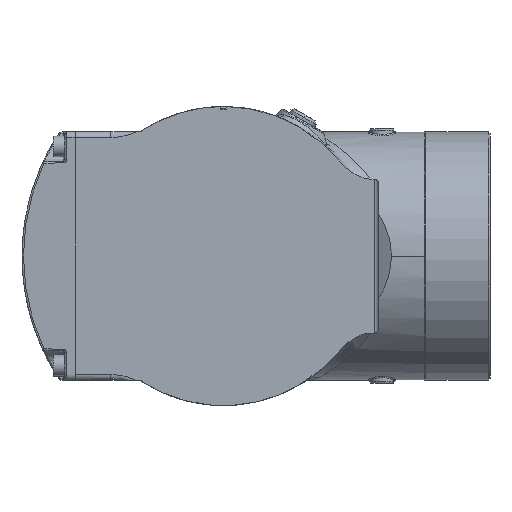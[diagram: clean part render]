
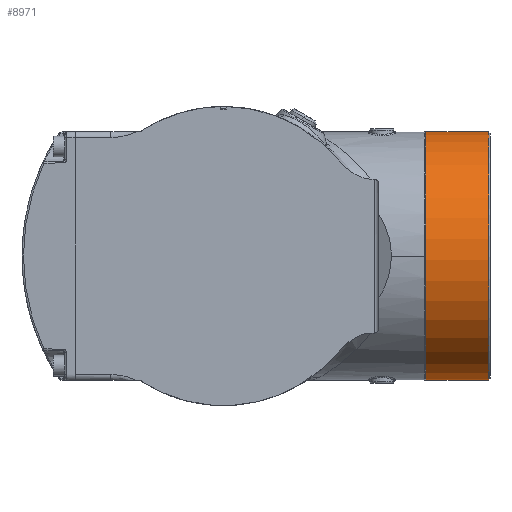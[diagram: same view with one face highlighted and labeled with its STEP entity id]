
A CAD part, front view. The second image highlights one B-rep face of the part: STEP entity #8971.
In plain terms, the highlighted cylindrical face has radius 42 mm (diameter 84 mm), a partial arc.
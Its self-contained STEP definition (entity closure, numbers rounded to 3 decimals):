
#212 = FACE_OUTER_BOUND ( 'NONE', #12780, .T. ) ;
#383 = AXIS2_PLACEMENT_3D ( 'NONE', #667, #4928, #14916 ) ;
#667 = CARTESIAN_POINT ( 'NONE',  ( 543.3, 0., 1009. ) ) ;
#1250 = AXIS2_PLACEMENT_3D ( 'NONE', #3357, #17419, #1975 ) ;
#1293 = EDGE_CURVE ( 'NONE', #12855, #14902, #7338, .T. ) ;
#1457 = ORIENTED_EDGE ( 'NONE', *, *, #3923, .T. ) ;
#1526 = VERTEX_POINT ( 'NONE', #4861 ) ;
#1536 = CARTESIAN_POINT ( 'NONE',  ( 564.5, 0., 1009. ) ) ;
#1975 = DIRECTION ( 'NONE',  ( 0., 0., 1. ) ) ;
#2679 = VECTOR ( 'NONE', #4901, 1000. ) ;
#3266 = CARTESIAN_POINT ( 'NONE',  ( 543.3, 0., 967. ) ) ;
#3357 = CARTESIAN_POINT ( 'NONE',  ( 543., 0., 1009. ) ) ;
#3403 = CARTESIAN_POINT ( 'NONE',  ( 564.5, 0., 967. ) ) ;
#3455 = CARTESIAN_POINT ( 'NONE',  ( 564.5, 2.5, 1050.926 ) ) ;
#3543 = AXIS2_PLACEMENT_3D ( 'NONE', #12681, #16923, #14247 ) ;
#3621 = ORIENTED_EDGE ( 'NONE', *, *, #4051, .F. ) ;
#3759 = VERTEX_POINT ( 'NONE', #16553 ) ;
#3923 = EDGE_CURVE ( 'NONE', #18034, #8642, #17132, .T. ) ;
#4051 = EDGE_CURVE ( 'NONE', #12855, #8642, #7860, .T. ) ;
#4861 = CARTESIAN_POINT ( 'NONE',  ( 564.5, -2.5, 1050.926 ) ) ;
#4901 = DIRECTION ( 'NONE',  ( 1., 0., 0. ) ) ;
#4928 = DIRECTION ( 'NONE',  ( 1., 0., 0. ) ) ;
#4976 = DIRECTION ( 'NONE',  ( -1., 0., 0. ) ) ;
#5052 = ORIENTED_EDGE ( 'NONE', *, *, #16661, .T. ) ;
#5848 = EDGE_CURVE ( 'NONE', #3759, #1526, #6469, .T. ) ;
#6469 = LINE ( 'NONE', #13604, #2679 ) ;
#6936 = AXIS2_PLACEMENT_3D ( 'NONE', #1536, #13948, #18010 ) ;
#7338 = CIRCLE ( 'NONE', #11190, 42. ) ;
#7860 = LINE ( 'NONE', #12027, #16234 ) ;
#8293 = CARTESIAN_POINT ( 'NONE',  ( 543.3, 2.5, 1050.926 ) ) ;
#8369 = CIRCLE ( 'NONE', #383, 42. ) ;
#8417 = CIRCLE ( 'NONE', #6936, 42. ) ;
#8642 = VERTEX_POINT ( 'NONE', #8293 ) ;
#8971 = ADVANCED_FACE ( 'NONE', ( #212 ), #14379, .T. ) ;
#9064 = CARTESIAN_POINT ( 'NONE',  ( 564.5, 0., 1009. ) ) ;
#9088 = EDGE_CURVE ( 'NONE', #3759, #18034, #8369, .T. ) ;
#11190 = AXIS2_PLACEMENT_3D ( 'NONE', #9064, #4976, #16171 ) ;
#12027 = CARTESIAN_POINT ( 'NONE',  ( 543., 2.5, 1050.926 ) ) ;
#12123 = DIRECTION ( 'NONE',  ( -1., 0., 0. ) ) ;
#12681 = CARTESIAN_POINT ( 'NONE',  ( 543.3, 0., 1009. ) ) ;
#12780 = EDGE_LOOP ( 'NONE', ( #16364, #15194, #1457, #3621, #17954, #5052 ) ) ;
#12855 = VERTEX_POINT ( 'NONE', #3455 ) ;
#13604 = CARTESIAN_POINT ( 'NONE',  ( 543., -2.5, 1050.926 ) ) ;
#13948 = DIRECTION ( 'NONE',  ( -1., 0., 0. ) ) ;
#14247 = DIRECTION ( 'NONE',  ( 0., 0., -1. ) ) ;
#14379 = CYLINDRICAL_SURFACE ( 'NONE', #1250, 42. ) ;
#14902 = VERTEX_POINT ( 'NONE', #3403 ) ;
#14916 = DIRECTION ( 'NONE',  ( 0., 0., -1. ) ) ;
#15194 = ORIENTED_EDGE ( 'NONE', *, *, #9088, .T. ) ;
#16171 = DIRECTION ( 'NONE',  ( 0., 0., 1. ) ) ;
#16234 = VECTOR ( 'NONE', #12123, 1000. ) ;
#16364 = ORIENTED_EDGE ( 'NONE', *, *, #5848, .F. ) ;
#16553 = CARTESIAN_POINT ( 'NONE',  ( 543.3, -2.5, 1050.926 ) ) ;
#16661 = EDGE_CURVE ( 'NONE', #14902, #1526, #8417, .T. ) ;
#16923 = DIRECTION ( 'NONE',  ( 1., 0., 0. ) ) ;
#17132 = CIRCLE ( 'NONE', #3543, 42. ) ;
#17419 = DIRECTION ( 'NONE',  ( 1., 0., 0. ) ) ;
#17954 = ORIENTED_EDGE ( 'NONE', *, *, #1293, .T. ) ;
#18010 = DIRECTION ( 'NONE',  ( 0., 0., 1. ) ) ;
#18034 = VERTEX_POINT ( 'NONE', #3266 ) ;
